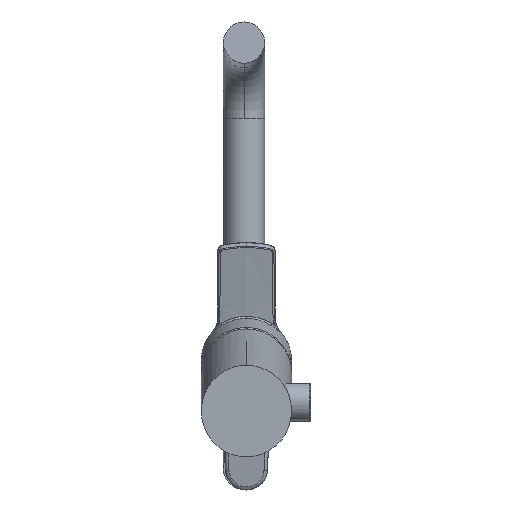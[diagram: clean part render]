
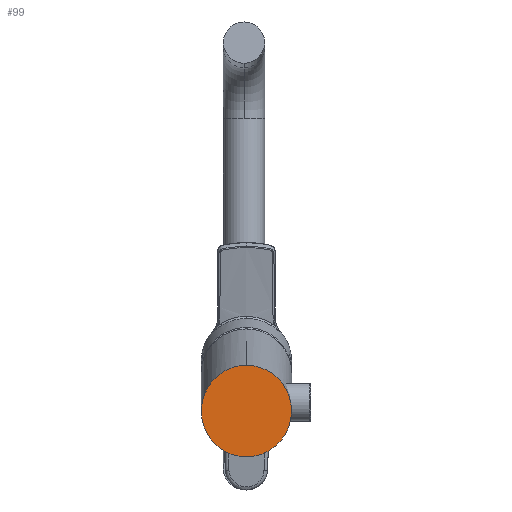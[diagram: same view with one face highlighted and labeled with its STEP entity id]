
A CAD part, front view. The second image highlights one B-rep face of the part: STEP entity #99.
In plain terms, the highlighted planar face has unit normal (0, -1, 0).
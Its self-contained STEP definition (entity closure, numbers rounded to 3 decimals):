
#99 = ADVANCED_FACE ( 'NONE', ( #5412 ), #1924, .F. ) ;
#366 = ORIENTED_EDGE ( 'NONE', *, *, #1822, .F. ) ;
#647 = CARTESIAN_POINT ( 'NONE',  ( -50., 0., 25.386 ) ) ;
#843 = VERTEX_POINT ( 'NONE', #2099 ) ;
#1139 = CARTESIAN_POINT ( 'NONE',  ( 0., 0., 25.386 ) ) ;
#1657 = CARTESIAN_POINT ( 'NONE',  ( 50., 0., -25.386 ) ) ;
#1816 = EDGE_LOOP ( 'NONE', ( #6051, #366 ) ) ;
#1822 = EDGE_CURVE ( 'NONE', #843, #4497, #4162, .T. ) ;
#1924 = PLANE ( 'NONE',  #5115 ) ;
#2099 = CARTESIAN_POINT ( 'NONE',  ( 0., 0., 25.386 ) ) ;
#2180 =( BOUNDED_CURVE ( )  B_SPLINE_CURVE ( 3, ( #6143, #2649, #647, #4147 ),
 .UNSPECIFIED., .F., .F. ) 
 B_SPLINE_CURVE_WITH_KNOTS ( ( 4, 4 ),
 ( 0., 3.142 ),
 .UNSPECIFIED. ) 
 CURVE ( )  GEOMETRIC_REPRESENTATION_ITEM ( )  RATIONAL_B_SPLINE_CURVE ( ( 1., 0.333, 0.333, 1. ) ) 
 REPRESENTATION_ITEM ( '' )  );
#2649 = CARTESIAN_POINT ( 'NONE',  ( -50., 0., -25.386 ) ) ;
#3125 = EDGE_CURVE ( 'NONE', #4497, #843, #2180, .T. ) ;
#3265 = DIRECTION ( 'NONE',  ( 0., 0., 1. ) ) ;
#3788 = DIRECTION ( 'NONE',  ( 0., 1., 0. ) ) ;
#4134 = CARTESIAN_POINT ( 'NONE',  ( 50., 0., 25.386 ) ) ;
#4147 = CARTESIAN_POINT ( 'NONE',  ( 0., 0., 25.386 ) ) ;
#4162 =( BOUNDED_CURVE ( )  B_SPLINE_CURVE ( 3, ( #1139, #4134, #1657, #5138 ),
 .UNSPECIFIED., .F., .F. ) 
 B_SPLINE_CURVE_WITH_KNOTS ( ( 4, 4 ),
 ( 3.142, 6.283 ),
 .UNSPECIFIED. ) 
 CURVE ( )  GEOMETRIC_REPRESENTATION_ITEM ( )  RATIONAL_B_SPLINE_CURVE ( ( 1., 0.333, 0.333, 1. ) ) 
 REPRESENTATION_ITEM ( '' )  );
#4497 = VERTEX_POINT ( 'NONE', #5556 ) ;
#5115 = AXIS2_PLACEMENT_3D ( 'NONE', #5249, #3788, #3265 ) ;
#5138 = CARTESIAN_POINT ( 'NONE',  ( 0., 0., -25.386 ) ) ;
#5249 = CARTESIAN_POINT ( 'NONE',  ( 0., 0., 0. ) ) ;
#5412 = FACE_OUTER_BOUND ( 'NONE', #1816, .T. ) ;
#5556 = CARTESIAN_POINT ( 'NONE',  ( 0., 0., -25.386 ) ) ;
#6051 = ORIENTED_EDGE ( 'NONE', *, *, #3125, .F. ) ;
#6143 = CARTESIAN_POINT ( 'NONE',  ( 0., 0., -25.386 ) ) ;
